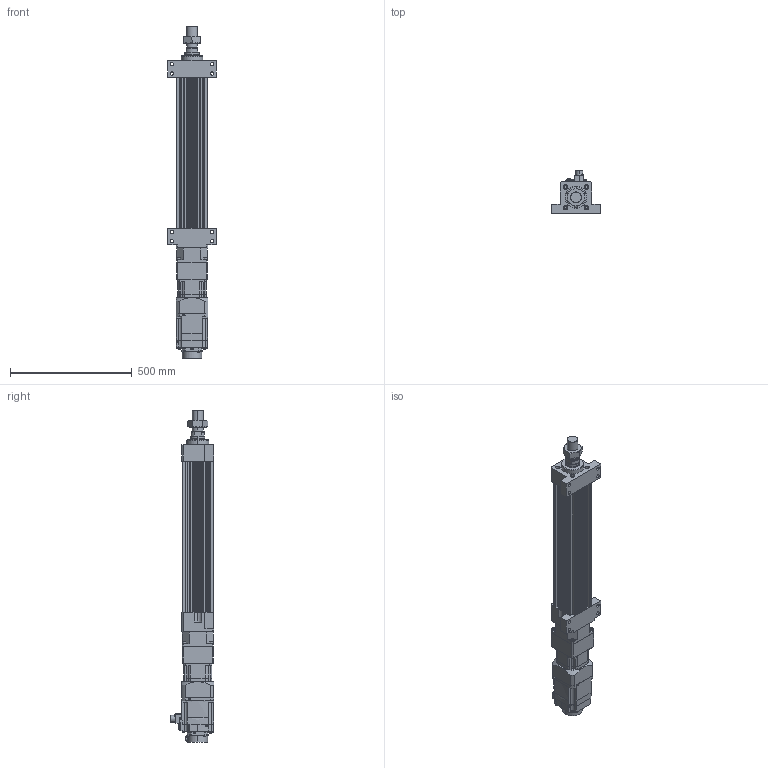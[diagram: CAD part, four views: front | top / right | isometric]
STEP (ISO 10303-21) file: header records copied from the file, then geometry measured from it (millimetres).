
FILE_DESCRIPTION (( 'STEP AP203' ), '1' );
FILE_NAME ('HES130NS(FS)(HS)-S400-W015G00-M-FFB.STEP', '2026-06-10T06:15:41', ( 'tms' ), ( '' ), 'SwSTEP 2.0', 'SolidWorks 2013', '' );
FILE_SCHEMA (( 'CONFIG_CONTROL_DESIGN' ));
Length unit declared in the file: millimetre
Products named in the file (8): HG-SR152B; HES130-M-ROD-400; HES130NS(FS)(HS)-S400-W015G00-M-FFB; M45X1.5P; AB1151; HES130-S-G120; AB1152; HES130-FFB-400
Assembly tree (7 placements, depth 2):
  HES130NS(FS)(HS)-S400-W015G00-M-FFB
    HES130-FFB-400
    HES130-M-ROD-400
    M45X1.5P
    HES130-S-G120
    AB1151
    AB1152
    HG-SR152B
Bounding box: 200 x 177.49 x 1362 mm (x, y, z)
Volume: 11039329.5 mm3; surface area: 1394416.6 mm2
Topology: 5 solids, 12 shells, 1246 faces, 3164 edges, 2063 vertices
Faces by surface type: plane 586, cylinder 572, cone 74, bspline 10, torus 4
Entity records: 39589 total; most frequent: CARTESIAN_POINT 7596, DIRECTION 6833, ORIENTED_EDGE 6300, EDGE_CURVE 3160, AXIS2_PLACEMENT_3D 2521, VERTEX_POINT 2063, LINE 1791, VECTOR 1791
